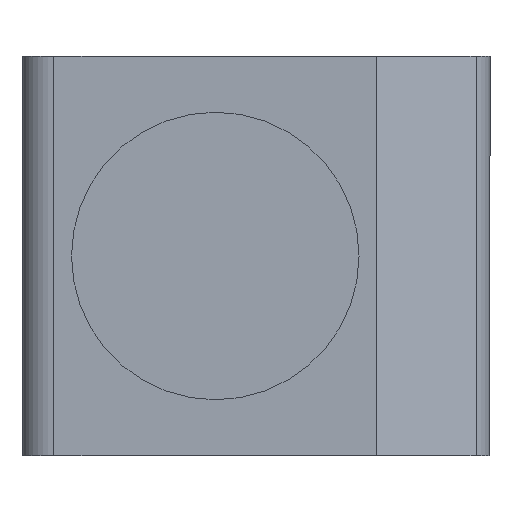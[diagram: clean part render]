
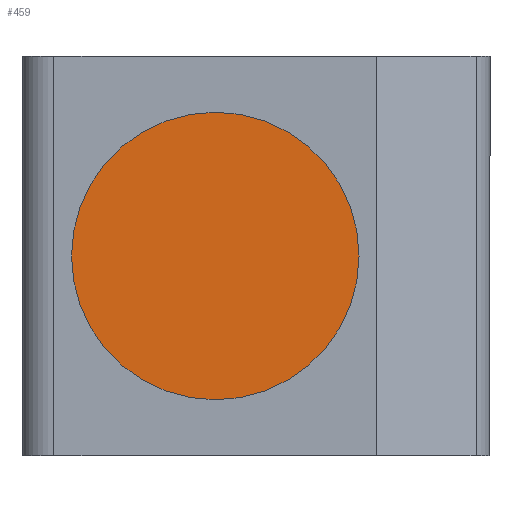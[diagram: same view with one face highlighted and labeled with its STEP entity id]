
A CAD part, front view. The second image highlights one B-rep face of the part: STEP entity #459.
In plain terms, the highlighted planar face has unit normal (0, -1, 0).
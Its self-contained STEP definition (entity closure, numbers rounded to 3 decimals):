
#31 = CARTESIAN_POINT ( 'NONE',  ( -13.99, -175.271, -473.3 ) ) ;
#38 = EDGE_CURVE ( 'NONE', #341, #495, #196, .T. ) ;
#117 = AXIS2_PLACEMENT_3D ( 'NONE', #253, #503, #250 ) ;
#196 = CIRCLE ( 'NONE', #238, 9. ) ;
#199 = ORIENTED_EDGE ( 'NONE', *, *, #38, .F. ) ;
#238 = AXIS2_PLACEMENT_3D ( 'NONE', #465, #251, #256 ) ;
#242 = EDGE_LOOP ( 'NONE', ( #199, #328 ) ) ;
#250 = DIRECTION ( 'NONE',  ( 0., 0., -1. ) ) ;
#251 = DIRECTION ( 'NONE',  ( 0., 1., 0. ) ) ;
#253 = CARTESIAN_POINT ( 'NONE',  ( -4.99, -175.271, -482.3 ) ) ;
#256 = DIRECTION ( 'NONE',  ( 0., 0., 1. ) ) ;
#261 = CARTESIAN_POINT ( 'NONE',  ( -13.99, -175.271, -482.3 ) ) ;
#303 = CIRCLE ( 'NONE', #413, 9. ) ;
#328 = ORIENTED_EDGE ( 'NONE', *, *, #490, .F. ) ;
#341 = VERTEX_POINT ( 'NONE', #31 ) ;
#353 = DIRECTION ( 'NONE',  ( 0., 0., 1. ) ) ;
#368 = FACE_OUTER_BOUND ( 'NONE', #242, .T. ) ;
#384 = DIRECTION ( 'NONE',  ( 0., 1., 0. ) ) ;
#390 = PLANE ( 'NONE',  #117 ) ;
#413 = AXIS2_PLACEMENT_3D ( 'NONE', #261, #384, #353 ) ;
#429 = CARTESIAN_POINT ( 'NONE',  ( -13.99, -175.271, -491.3 ) ) ;
#459 = ADVANCED_FACE ( 'NONE', ( #368 ), #390, .T. ) ;
#465 = CARTESIAN_POINT ( 'NONE',  ( -13.99, -175.271, -482.3 ) ) ;
#490 = EDGE_CURVE ( 'NONE', #495, #341, #303, .T. ) ;
#495 = VERTEX_POINT ( 'NONE', #429 ) ;
#503 = DIRECTION ( 'NONE',  ( 0., -1., 0. ) ) ;
